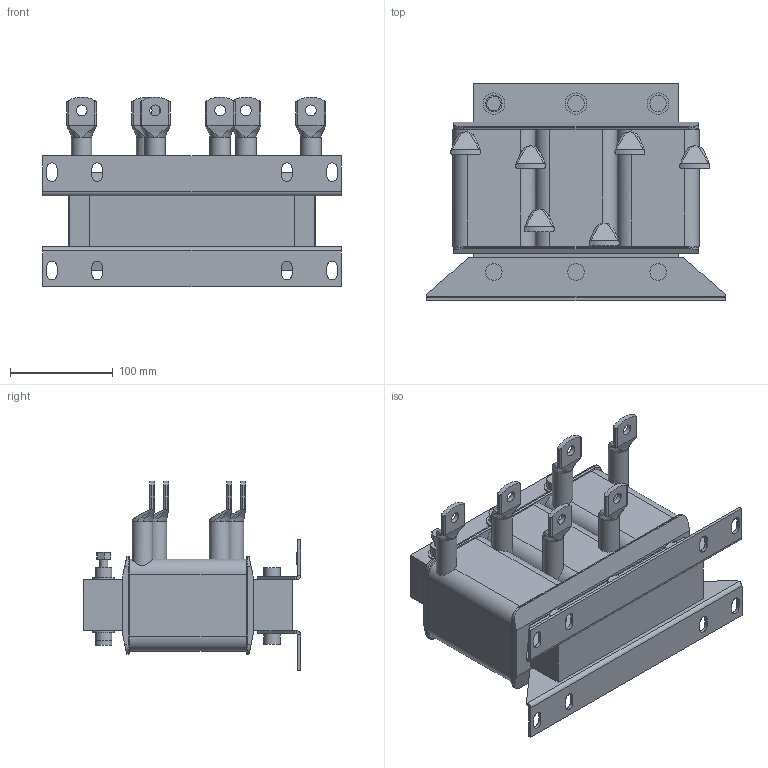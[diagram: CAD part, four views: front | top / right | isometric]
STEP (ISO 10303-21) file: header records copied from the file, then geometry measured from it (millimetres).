
FILE_DESCRIPTION (( 'STEP AP214' ), '1' );
FILE_NAME ('23Z1B03-10001.STEP', '2022-04-13T07:25:51', ( '' ), ( '' ), 'SwSTEP 2.0', 'SolidWorks 2019', '' );
FILE_SCHEMA (( 'AUTOMOTIVE_DESIGN' ));
Length unit declared in the file: millimetre
Products named in the file (1): 23Z1B03-10001
Bounding box: 291 x 212 x 184.92 mm (x, y, z)
Volume: 3693323.4 mm3; surface area: 267922.3 mm2
Topology: 1 solids, 1 shells, 358 faces, 915 edges, 586 vertices
Faces by surface type: plane 169, cylinder 120, bspline 61, torus 8
Full cylindrical faces by diameter (mm): 8 x1, 10.5 x6, 16 x12, 20 x6, 21 x6
Entity records: 14653 total; most frequent: CARTESIAN_POINT 6438, ORIENTED_EDGE 1744, DIRECTION 1394, EDGE_CURVE 872, VERTEX_POINT 574, AXIS2_PLACEMENT_3D 492, EDGE_LOOP 444, VECTOR 410
